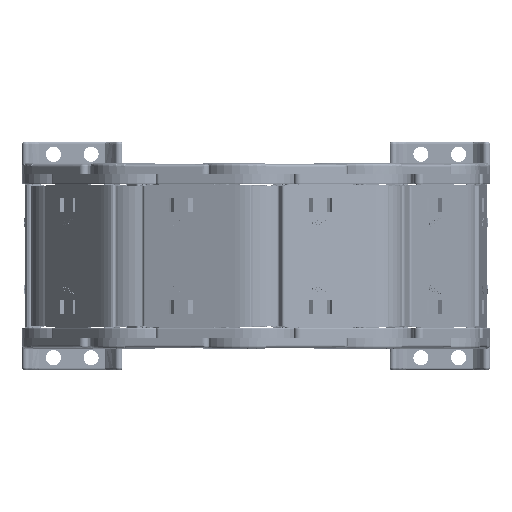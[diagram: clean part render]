
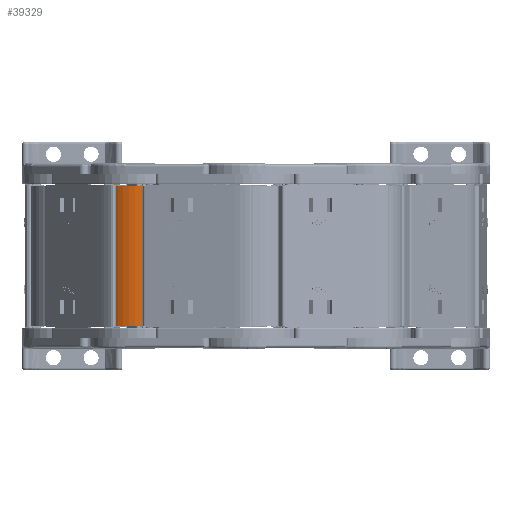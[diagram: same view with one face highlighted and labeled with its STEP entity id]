
A CAD part, left-side view. The second image highlights one B-rep face of the part: STEP entity #39329.
In plain terms, the highlighted cylindrical face has radius 17.3 mm (diameter 34.6 mm), a partial arc.
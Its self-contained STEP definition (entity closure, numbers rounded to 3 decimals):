
#389 = EDGE_CURVE ( 'NONE', #14748, #44098, #43020, .T. ) ;
#1653 = CARTESIAN_POINT ( 'NONE',  ( 23.607, -0.029, 28.5 ) ) ;
#3548 = VECTOR ( 'NONE', #40215, 1000. ) ;
#5800 = CARTESIAN_POINT ( 'NONE',  ( 32.559, 14.775, 47.05 ) ) ;
#9683 = DIRECTION ( 'NONE',  ( 0., 0., 1. ) ) ;
#10461 = CARTESIAN_POINT ( 'NONE',  ( 17.932, 16.314, 47.05 ) ) ;
#13079 = DIRECTION ( 'NONE',  ( -1., 0., 0. ) ) ;
#13402 = CARTESIAN_POINT ( 'NONE',  ( 17.932, 16.314, 28.5 ) ) ;
#14748 = VERTEX_POINT ( 'NONE', #24422 ) ;
#15698 = EDGE_CURVE ( 'NONE', #29968, #14748, #45702, .T. ) ;
#15856 = CIRCLE ( 'NONE', #42023, 17.3 ) ;
#18505 = DIRECTION ( 'NONE',  ( 0., 0., -1. ) ) ;
#19033 = CARTESIAN_POINT ( 'NONE',  ( 32.559, 14.775, -9.05 ) ) ;
#19557 = DIRECTION ( 'NONE',  ( 0., 0., -1. ) ) ;
#21922 = CYLINDRICAL_SURFACE ( 'NONE', #28533, 17.3 ) ;
#24422 = CARTESIAN_POINT ( 'NONE',  ( 17.932, 16.314, -9.05 ) ) ;
#25543 = EDGE_LOOP ( 'NONE', ( #36554, #30308, #38515, #41484 ) ) ;
#25813 = EDGE_CURVE ( 'NONE', #34942, #29968, #40817, .T. ) ;
#28533 = AXIS2_PLACEMENT_3D ( 'NONE', #1653, #35999, #13079 ) ;
#29968 = VERTEX_POINT ( 'NONE', #19033 ) ;
#30308 = ORIENTED_EDGE ( 'NONE', *, *, #45441, .T. ) ;
#31206 = AXIS2_PLACEMENT_3D ( 'NONE', #32462, #9683, #36425 ) ;
#32462 = CARTESIAN_POINT ( 'NONE',  ( 23.607, -0.029, -9.05 ) ) ;
#34942 = VERTEX_POINT ( 'NONE', #5800 ) ;
#35999 = DIRECTION ( 'NONE',  ( 0., 0., -1. ) ) ;
#36425 = DIRECTION ( 'NONE',  ( 1., 0., 0. ) ) ;
#36554 = ORIENTED_EDGE ( 'NONE', *, *, #389, .T. ) ;
#37611 = CARTESIAN_POINT ( 'NONE',  ( 32.559, 14.775, 28.5 ) ) ;
#38515 = ORIENTED_EDGE ( 'NONE', *, *, #25813, .T. ) ;
#39329 = ADVANCED_FACE ( 'NONE', ( #43630 ), #21922, .T. ) ;
#40215 = DIRECTION ( 'NONE',  ( 0., 0., 1. ) ) ;
#40817 = LINE ( 'NONE', #37611, #48791 ) ;
#41484 = ORIENTED_EDGE ( 'NONE', *, *, #15698, .T. ) ;
#42023 = AXIS2_PLACEMENT_3D ( 'NONE', #42577, #19557, #46569 ) ;
#42577 = CARTESIAN_POINT ( 'NONE',  ( 23.607, -0.029, 47.05 ) ) ;
#43020 = LINE ( 'NONE', #13402, #3548 ) ;
#43630 = FACE_OUTER_BOUND ( 'NONE', #25543, .T. ) ;
#44098 = VERTEX_POINT ( 'NONE', #10461 ) ;
#45441 = EDGE_CURVE ( 'NONE', #44098, #34942, #15856, .T. ) ;
#45702 = CIRCLE ( 'NONE', #31206, 17.3 ) ;
#46569 = DIRECTION ( 'NONE',  ( -1., 0., 0. ) ) ;
#48791 = VECTOR ( 'NONE', #18505, 1000. ) ;
